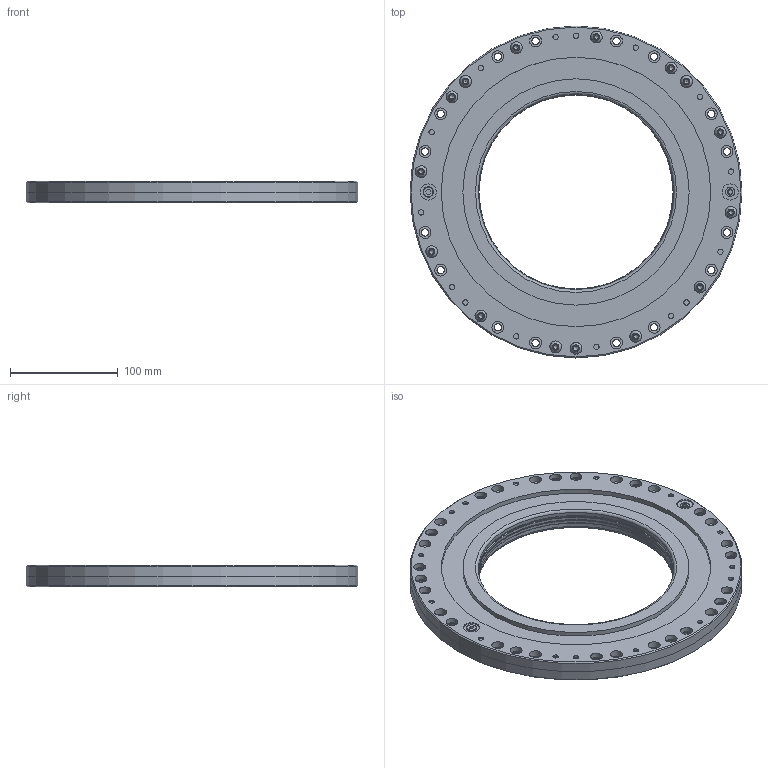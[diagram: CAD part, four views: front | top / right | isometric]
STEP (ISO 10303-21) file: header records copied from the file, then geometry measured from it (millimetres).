
FILE_DESCRIPTION(/* description */ ('Unknown'),/* implementation_level */ '2;1');
FILE_NAME(/* name */ '10023086_RotoClamp RC 180 N',/* time_stamp */ '2024-11-11T09:30:00+01:00',/* author */ ('Unknown'),/* organization */ ('Unknown'),/* preprocessor_version */ 'ST-DEVELOPER v19.4',/* originating_system */ 'Solid Edge',/* authorisation */ 'Unknown');
FILE_SCHEMA (('AUTOMOTIVE_DESIGN {1 0 10303 214 3 1 1}'));
Length unit declared in the file: millimetre
Products named in the file (7): 10023086; Linsenkopfschraube ISO 7380 TX M6 x 12 Ph 012.9; Verschlussschraube G1;8 x 4,5; 34-00-0013-E001; 34-06-0051-E001; 34-06-0064-E001; Gewindestift DIN 913 - M6x4 VA
Assembly tree (38 placements, depth 2):
  10023086
    Linsenkopfschraube ISO 7380 TX M6 x 12 Ph 012.9  x30
    Verschlussschraube G1;8 x 4,5  x3
    34-00-0013-E001  x2
    34-06-0051-E001
    34-06-0064-E001
    Gewindestift DIN 913 - M6x4 VA
Bounding box: 308 x 308 x 20.4 mm (x, y, z)
Volume: 807967.9 mm3; surface area: 273837.4 mm2
Topology: 38 solids, 38 shells, 1643 faces, 3930 edges, 2453 vertices
Faces by surface type: cylinder 999, cone 266, plane 221, torus 127, sphere 30
Full cylindrical faces by diameter (mm): 1.5 x5, 4.917 x31, 5.6 x30, 6 x62, 6.8 x63, 7.4 x1, 8.4 x1, 8.566 x4, 9.728 x4, 10.5 x30, 11 x64, 15 x4, 180 x2, 184 x2, 210 x2, 250 x2, 308 x2
Entity records: 9921 total; most frequent: CARTESIAN_POINT 2240, DIRECTION 1192, ORIENTED_EDGE 982, FACE_BOUND 548, EDGE_LOOP 546, AXIS2_PLACEMENT_3D 545, EDGE_CURVE 491, VERTEX_POINT 389
